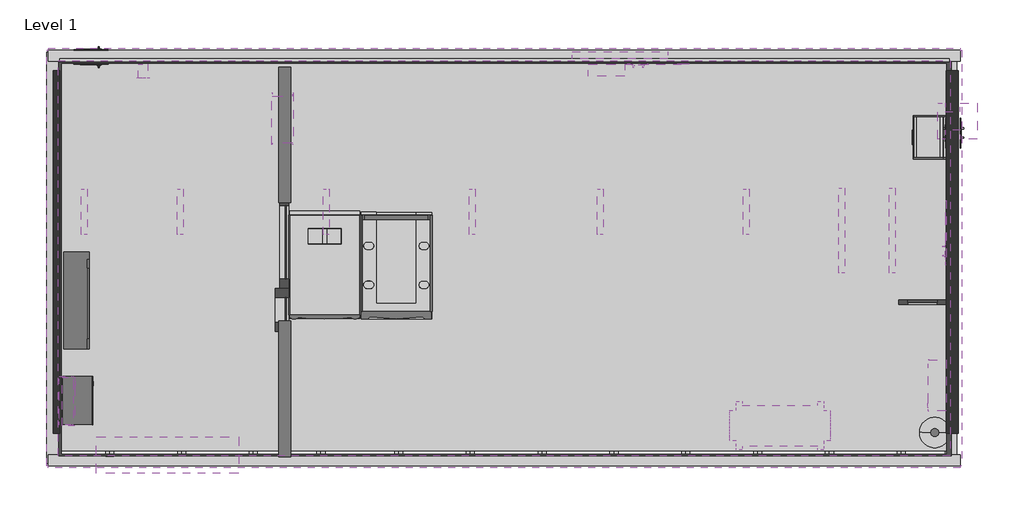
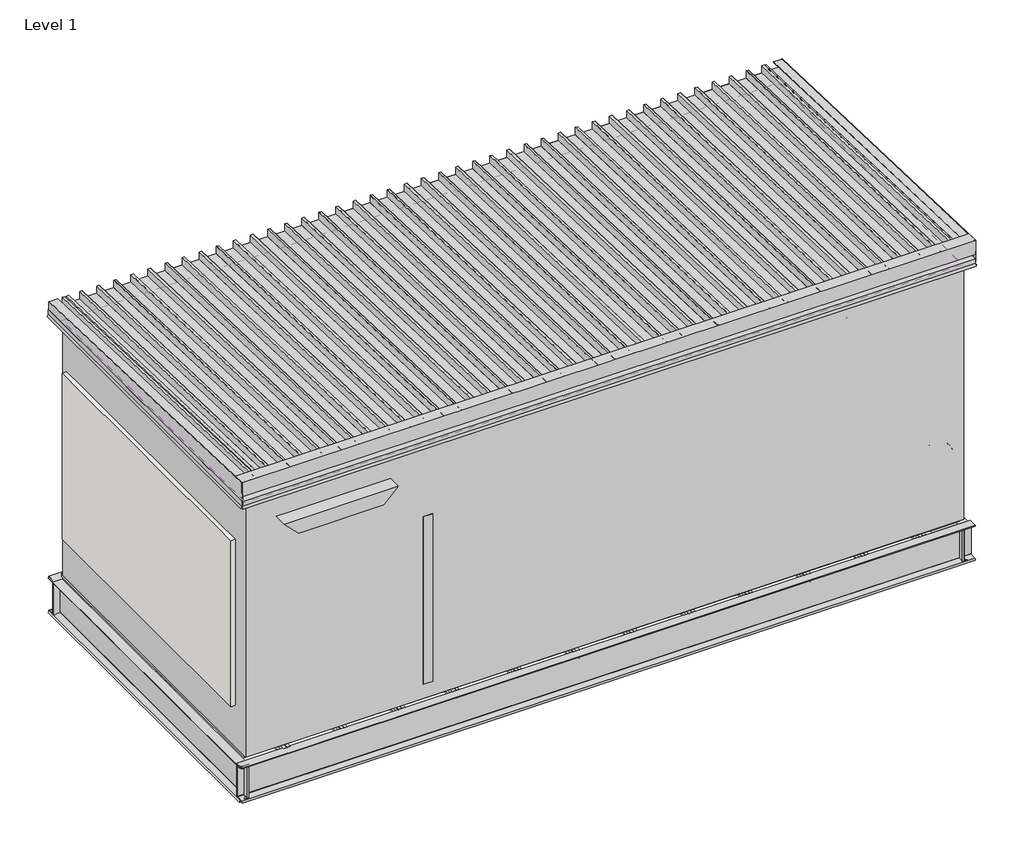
# One storey, incomplete: 22 beams, 17 proxies, 8 cable carrier fittings, 3 walls, 2 plates, 1 alarm, 1 covering.
"""IFC4 building model written with IfcOpenShell, lengths in millimetres."""

from ifc_helpers import new_model, si_unit, frame, origin, place, context, project, spatial, polyline, outline, extrude, transform, mapped, element, save
from components import cylinder_1_cylinder_1_a0b04ee7, beam_a0ba30f1, beam_673a7438, base_cover_40kw_base_cover_40kw_a4d79b44, c381x94_58a36d87, c381x94_26746bf0, c381x96_e7f4985d, c381x96_1e17e779, foot_stand_and_door_shade_foot_stand_and_door_shade_9e24d134, i_channel_153x157_b665bd47, i_channel_2c100x6_7_e83eee92, i_channel_2c100x6_7_0b379793, roof_40kw_roof_40kw_a1198938, roof_40kw_roof_40kw_301b227a, electrical_equipment_14537a31, mechanical_equipment_66c16102, electrical_equipment_2e28253e, electrical_equipment_7de670ac, electrical_equipment_2ad26752, electrical_equipment_9a1382ec, electrical_equipment_ff54cd8f, proxy_120v_outlet_120v_outlet_0315f664, proxy_480v_208v_dbe15ef4, acf301em_404c859c, cp_100_control_panel_810ad4ae, climate_control_climate_control_2b801170, e2m_access_control_panel_011aee9f, fire_alarm_control_panel_67536681, generator_annunciator_panel_2783cb85, i_line_power_distribution_panel_board_enclosure_cbae9e6e, type_1_3abf962e, hanger_cabletray_hanger_cabletray_1b30f011, hanger_cabletray_hanger_cabletray_7256ed64, system_panel_glazed_24b3d340, system_panel_glazed_cc63b6be

model = new_model("IFC4")

# Units and contexts
model_context = context("Model", 3, world=origin())
ifc_project = project(units=[si_unit("LENGTHUNIT", "METRE", prefix="MILLI")], contexts=[model_context])

# Site, building, storey
site = spatial("IfcSite", under=ifc_project)
building = spatial("IfcBuilding", under=site)
storey = spatial("IfcBuildingStorey", under=building, Name="Level 1", Elevation=0.0)

# Alarm
placement = place(None, origin())
cylinder_1_cylinder_1_shape = cylinder_1_cylinder_1_a0b04ee7(model_context)
element("IfcAlarm", 1, ObjectType="Cylinder-1 : Cylinder-1", at=placement, inside=storey, context=model_context, shape_type="MappedRepresentation", body=[
    mapped(cylinder_1_cylinder_1_shape, transform((3186.0911977, -3212.6424008, 424.0), x_axis=(1.0, 0.0, 0.0), y_axis=(0.0, 1.0, 0.0), z_axis=(0.0, 0.0, 1.0))),
])

# Beams
beam_shape = beam_a0ba30f1(model_context)
element("IfcBeam", 2, ObjectType="Insulation_config1 : Insulation_config1", at=placement, inside=storey, context=model_context, shape_type="MappedRepresentation", body=[
    mapped(beam_shape, transform((-4885.8033783, -3270.5466438, 0.0), x_axis=(1.0, 0.0, 0.0), y_axis=(0.0, 1.0, 0.0), z_axis=(0.0, 0.0, 1.0))),
])
beam_2_shape = beam_673a7438(model_context)
element("IfcBeam", 3, ObjectType="Inside partition_Config1 : Inside partition_Config1", at=placement, inside=storey, context=model_context, shape_type="MappedRepresentation", body=[
    mapped(beam_2_shape, transform((-4881.0431616, -3258.0939026, 0.0), x_axis=(1.0, 0.0, 0.0), y_axis=(0.0, 1.0, 0.0), z_axis=(0.0, 0.0, 1.0))),
])
base_cover_40kw_base_cover_40kw_shape = base_cover_40kw_base_cover_40kw_a4d79b44(model_context)
element("IfcBeam", 4, ObjectType="Base_cover_40kW : Base_cover_40kW", at=placement, inside=storey, context=model_context, shape_type="MappedRepresentation", body=[
    mapped(base_cover_40kw_base_cover_40kw_shape, transform((-410.1108023, -1725.0452169, 0.0), x_axis=(1.0, 0.0, 0.0), y_axis=(0.0, 1.0, 0.0), z_axis=(0.0, 0.0, 1.0))),
])
c381x94_shape = c381x94_58a36d87(model_context)
element("IfcBeam", 5, ObjectType="M_C-Channel_305x105 : C381x94", at=placement, inside=storey, context=model_context, shape_type="MappedRepresentation", body=[
    mapped(c381x94_shape, transform((1621.9411968, -94.1542185, 190.5), x_axis=(-1.0, 0.0, 0.0), y_axis=(0.0, -1.0, 0.0), z_axis=(0.0, 0.0, 1.0))),
])
c381x94_2_shape = c381x94_26746bf0(model_context)
element("IfcBeam", 6, ObjectType="M_C-Channel_305x105 : C381x94", at=placement, inside=storey, context=model_context, shape_type="MappedRepresentation", body=[
    mapped(c381x94_2_shape, transform((4579.3711968, -3412.6642154, 190.5), x_axis=(-1.0, 0.0, 0.0), y_axis=(0.0, -1.0, 0.0), z_axis=(0.0, 0.0, 1.0))),
])
c381x96_shape = c381x96_e7f4985d(model_context)
element("IfcBeam", 7, ObjectType="M_C-Channel_305x105 : C381x96", at=placement, inside=storey, context=model_context, shape_type="MappedRepresentation", body=[
    mapped(c381x96_shape, transform((-4155.0018007, 50.6370472, 189.0), x_axis=(0.0, -1.0, 0.0), y_axis=(1.0, 0.0, 0.0), z_axis=(0.0, 0.0, 1.0))),
])
c381x96_2_shape = c381x96_1e17e779(model_context)
element("IfcBeam", 8, ObjectType="M_C-Channel_305x105 : C381x96", at=placement, inside=storey, context=model_context, shape_type="MappedRepresentation", body=[
    mapped(c381x96_2_shape, transform((3292.1211953, 50.6370472, 189.0), x_axis=(0.0, -1.0, 0.0), y_axis=(1.0, 0.0, 0.0), z_axis=(0.0, 0.0, 1.0))),
])
foot_stand_and_door_shade_foot_stand_and_door_shade_shape = foot_stand_and_door_shade_foot_stand_and_door_shade_9e24d134(model_context)
element("IfcBeam", 9, ObjectType="Foot Stand and Door shade : Foot Stand and Door shade", at=placement, inside=storey, context=model_context, shape_type="MappedRepresentation", body=[
    mapped(foot_stand_and_door_shade_foot_stand_and_door_shade_shape, transform((-3878.9508023, -3802.0092181, 0.0), x_axis=(1.0, 0.0, 0.0), y_axis=(0.0, 1.0, 0.0), z_axis=(0.0, 0.0, 1.0))),
])
i_channel_153x157_shape = i_channel_153x157_b665bd47(model_context)
element("IfcBeam", 10, ObjectType="I Channel : 153x157", at=placement, inside=storey, context=model_context, shape_type="MappedRepresentation", body=[
    mapped(i_channel_153x157_shape, transform((-1017.7885357, -1750.0452169, 202.5), x_axis=(1.0, 0.0, 0.0), y_axis=(0.0, 1.0, 0.0), z_axis=(0.0, 0.0, 1.0))),
])
i_channel_2c100x6_7_shape = i_channel_2c100x6_7_e83eee92(model_context)
element("IfcBeam", 11, ObjectType="I Channel : 2C100X6.7", at=placement, inside=storey, context=model_context, shape_type="MappedRepresentation", body=[
    mapped(i_channel_2c100x6_7_shape, transform((2906.0911977, -803.3983096, 332.5), x_axis=(0.0, -1.0, 0.0), y_axis=(1.0, 0.0, 0.0), z_axis=(0.0, 0.0, 1.0))),
])
element("IfcBeam", 12, ObjectType="I Channel : 2C100X6.7", at=placement, inside=storey, context=model_context, shape_type="MappedRepresentation", body=[
    mapped(i_channel_2c100x6_7_shape, transform((2306.0911977, -803.3983096, 332.5), x_axis=(0.0, -1.0, 0.0), y_axis=(1.0, 0.0, 0.0), z_axis=(0.0, 0.0, 1.0))),
])
element("IfcBeam", 13, ObjectType="I Channel : 2C100X6.7", at=placement, inside=storey, context=model_context, shape_type="MappedRepresentation", body=[
    mapped(i_channel_2c100x6_7_shape, transform((1706.0911977, -803.3983096, 332.5), x_axis=(0.0, -1.0, 0.0), y_axis=(1.0, 0.0, 0.0), z_axis=(0.0, 0.0, 1.0))),
])
element("IfcBeam", 14, ObjectType="I Channel : 2C100X6.7", at=placement, inside=storey, context=model_context, shape_type="MappedRepresentation", body=[
    mapped(i_channel_2c100x6_7_shape, transform((-1942.5318032, -803.3983096, 332.5), x_axis=(0.0, -1.0, 0.0), y_axis=(1.0, 0.0, 0.0), z_axis=(0.0, 0.0, 1.0))),
])
element("IfcBeam", 15, ObjectType="I Channel : 2C100X6.7", at=placement, inside=storey, context=model_context, shape_type="MappedRepresentation", body=[
    mapped(i_channel_2c100x6_7_shape, transform((1106.0911977, -803.3983096, 332.5), x_axis=(0.0, -1.0, 0.0), y_axis=(1.0, 0.0, 0.0), z_axis=(0.0, 0.0, 1.0))),
])
element("IfcBeam", 16, ObjectType="I Channel : 2C100X6.7", at=placement, inside=storey, context=model_context, shape_type="MappedRepresentation", body=[
    mapped(i_channel_2c100x6_7_shape, transform((-93.9088023, -803.3983096, 332.5), x_axis=(0.0, -1.0, 0.0), y_axis=(1.0, 0.0, 0.0), z_axis=(0.0, 0.0, 1.0))),
])
element("IfcBeam", 17, ObjectType="I Channel : 2C100X6.7", at=placement, inside=storey, context=model_context, shape_type="MappedRepresentation", body=[
    mapped(i_channel_2c100x6_7_shape, transform((-693.9088023, -803.3983096, 332.5), x_axis=(0.0, -1.0, 0.0), y_axis=(1.0, 0.0, 0.0), z_axis=(0.0, 0.0, 1.0))),
])
element("IfcBeam", 18, ObjectType="I Channel : 2C100X6.7", at=placement, inside=storey, context=model_context, shape_type="MappedRepresentation", body=[
    mapped(i_channel_2c100x6_7_shape, transform((-1293.9088023, -803.3983096, 332.5), x_axis=(0.0, -1.0, 0.0), y_axis=(1.0, 0.0, 0.0), z_axis=(0.0, 0.0, 1.0))),
])
element("IfcBeam", 19, ObjectType="I Channel : 2C100X6.7", at=placement, inside=storey, context=model_context, shape_type="MappedRepresentation", body=[
    mapped(i_channel_2c100x6_7_shape, transform((-3107.1108023, -803.3983096, 332.5), x_axis=(0.0, -1.0, 0.0), y_axis=(1.0, 0.0, 0.0), z_axis=(0.0, 0.0, 1.0))),
])
element("IfcBeam", 20, ObjectType="I Channel : 2C100X6.7", at=placement, inside=storey, context=model_context, shape_type="MappedRepresentation", body=[
    mapped(i_channel_2c100x6_7_shape, transform((-2507.1108023, -803.3983096, 332.5), x_axis=(0.0, -1.0, 0.0), y_axis=(1.0, 0.0, 0.0), z_axis=(0.0, 0.0, 1.0))),
])
element("IfcBeam", 21, ObjectType="I Channel : 2C100X6.7", at=placement, inside=storey, context=model_context, shape_type="MappedRepresentation", body=[
    mapped(i_channel_2c100x6_7_shape, transform((506.0911977, -803.3983096, 332.5), x_axis=(0.0, -1.0, 0.0), y_axis=(1.0, 0.0, 0.0), z_axis=(0.0, 0.0, 1.0))),
])
i_channel_2c100x6_7_2_shape = i_channel_2c100x6_7_0b379793(model_context)
element("IfcBeam", 22, ObjectType="I Channel : 2C100X6.7", at=placement, inside=storey, context=model_context, shape_type="MappedRepresentation", body=[
    mapped(i_channel_2c100x6_7_2_shape, transform((-3707.1108023, -810.2163102, 332.5), x_axis=(0.0, -1.0, 0.0), y_axis=(1.0, 0.0, 0.0), z_axis=(0.0, 0.0, 1.0))),
])
roof_40kw_roof_40kw_shape = roof_40kw_roof_40kw_a1198938(model_context)
roof_40kw_roof_40kw_2_shape = roof_40kw_roof_40kw_301b227a(model_context)
element("IfcBeam", 23, ObjectType="Roof_40kW : Roof_40kW", at=placement, inside=storey, context=model_context, shape_type="MappedRepresentation", body=[
    mapped(roof_40kw_roof_40kw_shape, transform((-412.1108023, -3478.4989779, 0.0), x_axis=(1.0, 0.0, 0.0), y_axis=(0.0, 1.0, 0.0), z_axis=(0.0, 0.0, 1.0))),
    mapped(roof_40kw_roof_40kw_2_shape, transform((-412.1108023, -3478.4989779, 0.0), x_axis=(1.0, 0.0, 0.0), y_axis=(0.0, 1.0, 0.0), z_axis=(0.0, 0.0, 1.0))),
])

# Proxies
electrical_equipment_shape = electrical_equipment_14537a31(model_context)
element("IfcBuildingElementProxy", 24, Name="UPS_Symmetra_PX_40_Schneider_Electric_10-40kVA_208V_BIM_Model : SY40K40F", ObjectType="UPS_Symmetra_PX_40_Schneider_Electric_10-40kVA_208V_BIM_Model : SY40K40F", at=placement, inside=storey, context=model_context, shape_type="MappedRepresentation", body=[
    mapped(electrical_equipment_shape, transform((-1911.1555951, -1811.453713, 424.0), x_axis=(1.0, 0.0, 0.0), y_axis=(0.0, 1.0, 0.0), z_axis=(0.0, 0.0, 1.0))),
])
mechanical_equipment_shape = mechanical_equipment_66c16102(model_context)
element("IfcBuildingElementProxy", 25, Name="Dehumidifier2 : Dehumidifier2", ObjectType="Dehumidifier2 : Dehumidifier2", at=placement, inside=storey, context=model_context, shape_type="MappedRepresentation", body=[
    mapped(mechanical_equipment_shape, transform((1891.8891977, -3358.1846423, 2844.0), x_axis=(1.0, 0.0, 0.0), y_axis=(0.0, 1.0, 0.0), z_axis=(0.0, 0.0, 1.0))),
])
electrical_equipment_2_shape = electrical_equipment_2e28253e(model_context)
element("IfcBuildingElementProxy", 26, Name="Distribution_Sockets : Distribution_Sockets", ObjectType="Distribution_Sockets : Distribution_Sockets", at=placement, inside=storey, context=model_context, shape_type="MappedRepresentation", body=[
    mapped(electrical_equipment_2_shape, transform((940.5210102, -72.4452707, 2991.0), x_axis=(1.0, 0.0, 0.0), y_axis=(0.0, 1.0, 0.0), z_axis=(0.0, 0.0, 1.0))),
])
electrical_equipment_3_shape = electrical_equipment_7de670ac(model_context)
element("IfcBuildingElementProxy", 27, Name="Distribution_Sockets : Distribution_Sockets", ObjectType="Distribution_Sockets : Distribution_Sockets", at=placement, inside=storey, context=model_context, shape_type="MappedRepresentation", body=[
    mapped(electrical_equipment_3_shape, transform((3340.5944046, -1466.0452341, 2991.0), x_axis=(0.0, 1.0, 0.0), y_axis=(-1.0, 0.0, 0.0), z_axis=(0.0, 0.0, 1.0))),
])
electrical_equipment_4_shape = electrical_equipment_2ad26752(model_context)
element("IfcBuildingElementProxy", 28, Name="Distribution_Socket_4_rotated : Distribution_Socket_4_rotated", ObjectType="Distribution_Socket_4_rotated : Distribution_Socket_4_rotated", at=placement, inside=storey, context=model_context, shape_type="MappedRepresentation", body=[
    mapped(electrical_equipment_4_shape, transform((-3865.1108023, -72.0452169, 749.3801703), x_axis=(1.0, 0.0, 0.0), y_axis=(0.0, 1.0, 0.0), z_axis=(0.0, 0.0, 1.0))),
])
electrical_equipment_5_shape = electrical_equipment_9a1382ec(model_context)
element("IfcBuildingElementProxy", 29, Name="DX_InRow_Control : DX_InRow_Control", ObjectType="DX_InRow_Control : DX_InRow_Control", at=placement, inside=storey, context=model_context, shape_type="MappedRepresentation", body=[
    mapped(electrical_equipment_5_shape, transform((568.0161968, -55.5702707, 2698.0), x_axis=(-1.0, 0.0, 0.0), y_axis=(0.0, -1.0, 0.0), z_axis=(0.0, 0.0, 1.0))),
])
electrical_equipment_6_shape = electrical_equipment_ff54cd8f(model_context)
element("IfcBuildingElementProxy", 30, Name="Distribution_Socket_Single_rotated : Distribution_Socket_Single_rotated", ObjectType="Distribution_Socket_Single_rotated : Distribution_Socket_Single_rotated", at=placement, inside=storey, context=model_context, shape_type="MappedRepresentation", body=[
    mapped(electrical_equipment_6_shape, transform((3340.0944046, -708.5205494, 573.2220356), x_axis=(0.0, 1.0, 0.0), y_axis=(-1.0, 0.0, 0.0), z_axis=(0.0, 0.0, 1.0))),
])
proxy_120v_outlet_120v_outlet_shape = proxy_120v_outlet_120v_outlet_0315f664(model_context)
element("IfcBuildingElementProxy", 31, Name="120V Outlet : 120V Outlet", ObjectType="120V Outlet : 120V Outlet", at=placement, inside=storey, context=model_context, shape_type="MappedRepresentation", body=[
    mapped(proxy_120v_outlet_120v_outlet_shape, transform((-3430.3108023, -72.2452438, -0.0755609), x_axis=(-1.0, 0.0, 0.0), y_axis=(0.0, -1.0, 0.0), z_axis=(0.0, 0.0, 1.0))),
])
proxy_480v_208v_shape = proxy_480v_208v_dbe15ef4(model_context)
element("IfcBuildingElementProxy", 32, Name="PD40G6FK1-M_-_InfraStruxure_PDU_40kW,_480V_In,_208V_Out_with_MBP_BIM_MODEL : 480V/208V", ObjectType="PD40G6FK1-M_-_InfraStruxure_PDU_40kW,_480V_In,_208V_Out_with_MBP_BIM_MODEL : 480V/208V", at=placement, inside=storey, context=model_context, shape_type="MappedRepresentation", body=[
    mapped(proxy_480v_208v_shape, transform((-1312.6555951, -1811.7537194, 424.0), x_axis=(1.0, 0.0, 0.0), y_axis=(0.0, 1.0, 0.0), z_axis=(0.0, 0.0, 1.0))),
])
acf301em_shape = acf301em_404c859c(model_context)
element("IfcBuildingElementProxy", 33, Name="ACF301EM - Wiring_Closet_Ventillation_Unit : ACF301EM", ObjectType="ACF301EM - Wiring_Closet_Ventillation_Unit : ACF301EM", at=placement, inside=storey, context=model_context, shape_type="MappedRepresentation", body=[
    mapped(acf301em_shape, transform((-2472.1108023, -596.3735943, 2845.5), x_axis=(0.0, 1.0, 0.0), y_axis=(-1.0, 0.0, 0.0), z_axis=(0.0, 0.0, 1.0))),
])
cp_100_control_panel_shape = cp_100_control_panel_810ad4ae(model_context)
element("IfcBuildingElementProxy", 34, Name="CP-100_Control_Panel_Wallmount_BIM_Model : CP-100 Control panel", ObjectType="CP-100_Control_Panel_Wallmount_BIM_Model : CP-100 Control panel", at=placement, inside=storey, context=model_context, shape_type="MappedRepresentation", body=[
    mapped(cp_100_control_panel_shape, transform((-4172.9373429, -2819.9348829, 66.0), x_axis=(0.0, -1.0, 0.0), y_axis=(1.0, 0.0, 0.0), z_axis=(0.0, 0.0, 1.0))),
])
climate_control_climate_control_shape = climate_control_climate_control_2b801170(model_context)
element("IfcBuildingElementProxy", 35, Name="Climate Control : Climate Control", ObjectType="Climate Control : Climate Control", at=placement, inside=storey, context=model_context, shape_type="MappedRepresentation", body=[
    mapped(climate_control_climate_control_shape, transform((3321.0745384, -757.0452169, 2650.0), x_axis=(0.0, 1.0000000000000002, 0.0), y_axis=(-1.0000000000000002, 0.0, 0.0), z_axis=(0.0, 0.0, 1.0))),
])
e2m_access_control_panel_shape = e2m_access_control_panel_011aee9f(model_context)
element("IfcBuildingElementProxy", 36, Name="E2M_Access_Control_Panel_Wallmount_BIM_Model : E2M-Access Control Panel", ObjectType="E2M_Access_Control_Panel_Wallmount_BIM_Model : E2M-Access Control Panel", at=placement, inside=storey, context=model_context, shape_type="MappedRepresentation", body=[
    mapped(e2m_access_control_panel_shape, transform((-4178.6108023, -2944.9348829, 822.0354149), x_axis=(0.0, -1.0, 0.0), y_axis=(1.0, 0.0, 0.0), z_axis=(0.0, 0.0, 1.0))),
])
fire_alarm_control_panel_shape = fire_alarm_control_panel_67536681(model_context)
element("IfcBuildingElementProxy", 37, Name="Fire_Alarm_Control_Panel_Wallmount_BIM_Model : Fire Alarm Control Panel", ObjectType="Fire_Alarm_Control_Panel_Wallmount_BIM_Model : Fire Alarm Control Panel", at=placement, inside=storey, context=model_context, shape_type="MappedRepresentation", body=[
    mapped(fire_alarm_control_panel_shape, transform((3332.5944046, -2943.6153667, 1143.0), x_axis=(0.0, 1.0, 0.0), y_axis=(-1.0, 0.0, 0.0), z_axis=(0.0, 0.0, 1.0))),
])
generator_annunciator_panel_shape = generator_annunciator_panel_2783cb85(model_context)
element("IfcBuildingElementProxy", 38, Name="Generator_Annunciator_Panel_Wallmount_BIM_Model : Generator Annunciator Panel", ObjectType="Generator_Annunciator_Panel_Wallmount_BIM_Model : Generator Annunciator Panel", at=placement, inside=storey, context=model_context, shape_type="MappedRepresentation", body=[
    mapped(generator_annunciator_panel_shape, transform((-4177.4390101, -2828.5211363, 836.0), x_axis=(0.0, -1.0, 0.0), y_axis=(1.0, 0.0, 0.0), z_axis=(0.0, 0.0, 1.0))),
])
i_line_power_distribution_panel_board_enclosure_shape = i_line_power_distribution_panel_board_enclosure_cbae9e6e(model_context)
element("IfcBuildingElementProxy", 39, Name="I-Line_Power_Distribution_Panel_Board_Enclosure_MDP-100_BIM_Model : I-Line Power Distribution Panel Board Enclosure", ObjectType="I-Line_Power_Distribution_Panel_Board_Enclosure_MDP-100_BIM_Model : I-Line Power Distribution Panel Board Enclosure", at=placement, inside=storey, context=model_context, shape_type="MappedRepresentation", body=[
    mapped(i_line_power_distribution_panel_board_enclosure_shape, transform((-3985.0258413, -2108.9898784, 424.0), x_axis=(0.0, 1.0000000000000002, 0.0), y_axis=(-1.0000000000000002, 0.0, 0.0), z_axis=(0.0, 0.0, 1.0))),
])
type_1_shape = type_1_3abf962e(model_context)
element("IfcBuildingElementProxy", 40, Name="UE001 - Carel_Humidifier_Wallmount_BIM_Model : Type 1", ObjectType="UE001 - Carel_Humidifier_Wallmount_BIM_Model : Type 1", at=placement, inside=storey, context=model_context, shape_type="MappedRepresentation", body=[
    mapped(type_1_shape, transform((3332.5944046, -741.8695011, 376.2875), x_axis=(0.0, 1.0, 0.0), y_axis=(-1.0, 0.0, 0.0), z_axis=(0.0, 0.0, 1.0))),
])

# Cable carrier fittings
hanger_cabletray_hanger_cabletray_shape = hanger_cabletray_hanger_cabletray_1b30f011(model_context)
element("IfcCableCarrierFitting", 41, ObjectType="Hanger_CableTray : Hanger_CableTray", at=placement, inside=storey, context=model_context, shape_type="MappedRepresentation", body=[
    mapped(hanger_cabletray_hanger_cabletray_shape, transform((-3919.5012088, -1203.2452169, 2832.0), x_axis=(0.0, 1.0, 0.0), y_axis=(-1.0, 0.0, 0.0), z_axis=(0.0, 0.0, 1.0))),
])
element("IfcCableCarrierFitting", 42, ObjectType="Hanger_CableTray : Hanger_CableTray", at=placement, inside=storey, context=model_context, shape_type="MappedRepresentation", body=[
    mapped(hanger_cabletray_hanger_cabletray_shape, transform((-3117.8137088, -1203.2452169, 2832.0), x_axis=(0.0, 1.0, 0.0), y_axis=(-1.0, 0.0, 0.0), z_axis=(0.0, 0.0, 1.0))),
])
element("IfcCableCarrierFitting", 43, ObjectType="Hanger_CableTray : Hanger_CableTray", at=placement, inside=storey, context=model_context, shape_type="MappedRepresentation", body=[
    mapped(hanger_cabletray_hanger_cabletray_shape, transform((-1898.6137088, -1203.2452169, 2832.0), x_axis=(0.0, 1.0, 0.0), y_axis=(-1.0, 0.0, 0.0), z_axis=(0.0, 0.0, 1.0))),
])
element("IfcCableCarrierFitting", 44, ObjectType="Hanger_CableTray : Hanger_CableTray", at=placement, inside=storey, context=model_context, shape_type="MappedRepresentation", body=[
    mapped(hanger_cabletray_hanger_cabletray_shape, transform((-679.4137088, -1203.2452169, 2832.0), x_axis=(0.0, 1.0, 0.0), y_axis=(-1.0, 0.0, 0.0), z_axis=(0.0, 0.0, 1.0))),
])
element("IfcCableCarrierFitting", 45, ObjectType="Hanger_CableTray : Hanger_CableTray", at=placement, inside=storey, context=model_context, shape_type="MappedRepresentation", body=[
    mapped(hanger_cabletray_hanger_cabletray_shape, transform((391.2862941, -1203.2452169, 2832.0), x_axis=(0.0, 1.0, 0.0), y_axis=(-1.0, 0.0, 0.0), z_axis=(0.0, 0.0, 1.0))),
])
element("IfcCableCarrierFitting", 46, ObjectType="Hanger_CableTray : Hanger_CableTray", at=placement, inside=storey, context=model_context, shape_type="MappedRepresentation", body=[
    mapped(hanger_cabletray_hanger_cabletray_shape, transform((1610.4862941, -1203.2452169, 2832.0), x_axis=(0.0, 1.0, 0.0), y_axis=(-1.0, 0.0, 0.0), z_axis=(0.0, 0.0, 1.0))),
])
hanger_cabletray_hanger_cabletray_2_shape = hanger_cabletray_hanger_cabletray_7256ed64(model_context)
element("IfcCableCarrierFitting", 47, ObjectType="Hanger_CableTray : Hanger_CableTray", at=placement, inside=storey, context=model_context, shape_type="MappedRepresentation", body=[
    mapped(hanger_cabletray_hanger_cabletray_2_shape, transform((2829.6862926, -1523.2452169, 2832.0), x_axis=(0.0, 1.0, 0.0), y_axis=(-1.0, 0.0, 0.0), z_axis=(0.0, 0.0, 1.0))),
])
element("IfcCableCarrierFitting", 48, ObjectType="Hanger_CableTray : Hanger_CableTray", at=placement, inside=storey, context=model_context, shape_type="MappedRepresentation", body=[
    mapped(hanger_cabletray_hanger_cabletray_2_shape, transform((2409.6862926, -1523.2452169, 2832.0), x_axis=(0.0, 1.0, 0.0), y_axis=(-1.0, 0.0, 0.0), z_axis=(0.0, 0.0, 1.0))),
])

# Covering
element("IfcCovering", 49, ObjectType="GWB on Mtl Stud", at=placement, inside=storey, context=model_context, shape_type="SweptSolid", body=[
    extrude(outline(polyline([(3313.8444046, -104.4452169), (3313.8444046, -3406.1092181), (-4137.4390101, -3406.1092181), (-4137.4390101, -104.4452169), (3313.8444046, -104.4452169)])), frame((0.0, 0.0, 3219.0), z_axis=(0.0, 0.0, 1.0), x_axis=(1.0, 0.0, 0.0)), (0.0, 0.0, 1.0), 107.95),
])

# Plates
system_panel_glazed_shape = system_panel_glazed_24b3d340(model_context)
element("IfcPlate", 50, ObjectType="System Panel : Glazed", at=placement, inside=storey, context=model_context, shape_type="MappedRepresentation", body=[
    mapped(system_panel_glazed_shape, transform((-2346.6555954, -722.5213773, 424.0), x_axis=(0.0, -1.0, 0.0), y_axis=(1.0, 0.0, 0.0), z_axis=(0.0, 0.0, 1.0))),
])
system_panel_glazed_2_shape = system_panel_glazed_cc63b6be(model_context)
element("IfcPlate", 51, ObjectType="System Panel : Glazed", at=placement, inside=storey, context=model_context, shape_type="MappedRepresentation", body=[
    mapped(system_panel_glazed_2_shape, transform((-2344.1555954, -2847.8967569, 582.4721745), x_axis=(0.0, -1.0, 0.0), y_axis=(1.0, 0.0, 0.0), z_axis=(0.0, 0.0, 1.0))),
])

# Walls
element("IfcWall", 52, ObjectType="Generic - 100mm 2", at=placement, inside=storey, context=model_context, shape_type="SweptSolid", body=[
    extrude(outline(polyline([(-4123.4390101, -185.5841094), (-4123.4390101, -3221.4685273), (-4181.4390101, -3221.4685273), (-4181.4390101, -185.5841094), (-4123.4390101, -185.5841094)])), frame((0.0, 0.0, 878.857313), z_axis=(0.0, 0.0, 1.0), x_axis=(1.0, 0.0, 0.0)), (0.0, 0.0, 1.0), 1824.0926969),
])
element("IfcWall", 53, ObjectType="Generic - 100mm 2", at=placement, inside=storey, context=model_context, shape_type="SweptSolid", body=[
    extrude(outline(polyline([(155.3457789, -26.5702707), (955.3457789, -26.5702707), (955.3457789, -84.5702707), (155.3457789, -84.5702707), (155.3457789, -26.5702707)])), frame((0.0, 0.0, 2656.9378237), z_axis=(0.0, 0.0, 1.0), x_axis=(1.0, 0.0, 0.0)), (0.0, 0.0, 1.0), 424.6595009),
])
element("IfcWall", 54, ObjectType="Generic - 200mm", at=placement, inside=storey, context=model_context, shape_type="SweptSolid", body=[
    extrude(outline(polyline([(3382.5944046, -185.5841094), (3382.5944046, -3221.4685273), (3282.5944046, -3221.4685273), (3282.5944046, -185.5841094), (3382.5944046, -185.5841094)])), frame((0.0, 0.0, 878.857313), z_axis=(0.0, 0.0, 1.0), x_axis=(1.0, 0.0, 0.0)), (0.0, 0.0, 1.0), 1696.2174867),
])

save(model, "model.ifc")
